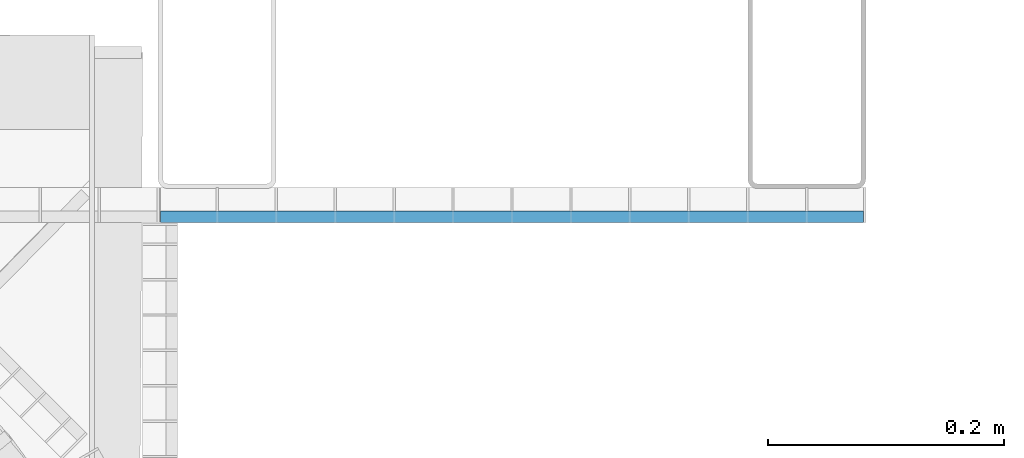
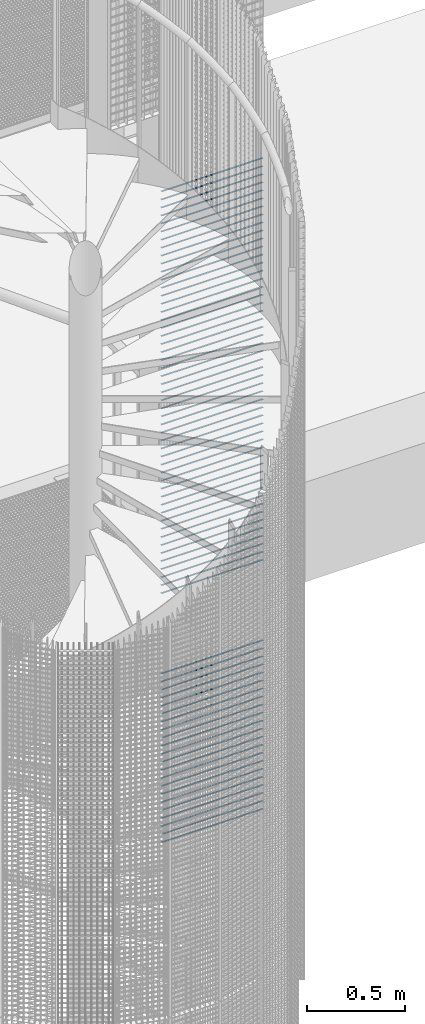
# One storey, part 294 of 1148: 73 beams, 1 element without a shape of its own.
"""IFC2X3 building model written with IfcOpenShell, lengths in millimetres."""

from ifc_helpers import new_model, si_unit, frame, origin_with_axes, origin_2d_with_axis, place, context, subcontext, project, spatial, rectangle, extrude, material, type_object, element, aggregate, save


model = new_model("IFC2X3")

# Units and contexts
model_context = context("Model", 3, precision=1e-05, world=origin_with_axes())
body_context = subcontext(model_context, "Body", "Model", "MODEL_VIEW")
ifc_project = project(units=[si_unit("LENGTHUNIT", "METRE", prefix="MILLI"), si_unit("AREAUNIT", "SQUARE_METRE"), si_unit("VOLUMEUNIT", "CUBIC_METRE"), si_unit("MASSUNIT", "GRAM", prefix="KILO"), si_unit("TIMEUNIT", "SECOND"), si_unit("PLANEANGLEUNIT", "RADIAN"), si_unit("SOLIDANGLEUNIT", "STERADIAN"), si_unit("THERMODYNAMICTEMPERATUREUNIT", "DEGREE_CELSIUS"), si_unit("LUMINOUSINTENSITYUNIT", "LUMEN")], contexts=[model_context])

# Site, building, storey
site_placement = place(None, origin_with_axes())
site = spatial("IfcSite", under=ifc_project, at=site_placement, Name="Undefined", CompositionType="ELEMENT")
building_placement = place(site_placement, origin_with_axes())
building = spatial("IfcBuilding", under=site, at=building_placement, Name="Undefined", CompositionType="ELEMENT")
storey_placement = place(building_placement, origin_with_axes())
storey = spatial("IfcBuildingStorey", under=building, at=storey_placement, Name="Undefined", CompositionType="ELEMENT", Elevation=0.0)

# Assembly, beams
assembly_placement = place(storey_placement, origin_with_axes())
assembly = element("IfcElementAssembly", 1, at=assembly_placement, inside=storey, Name="BORDURE", AssemblyPlace="NOTDEFINED", PredefinedType="NOTDEFINED")
ifc_material = material(Name="STEEL/S235JR")
beam_type = type_object("IfcBeamType", Name="PL2*10", PredefinedType="NOTDEFINED")
beam_1_placement = place(assembly_placement, frame((952.069589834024, 876.014689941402, 9554.998), z_axis=(0.0, -1.0, 0.0), x_axis=(1.0, 0.0, 0.0)))
beam_1 = element("IfcBeam", 2, at=beam_1_placement, type_object=beam_type, material=ifc_material, Name="ENTRETOISE", context=body_context, shape_type="SweptSolid", body=[
    extrude(rectangle(XDim=2.0, YDim=10.0, at=origin_2d_with_axis()), frame((596.0, 0.0, 0.0), z_axis=(-1.0, 0.0, 0.0), x_axis=(0.0, -1.0, 0.0)), (0.0, 0.0, 1.0), 596.0),
])
beam_2_placement = place(assembly_placement, frame((952.069589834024, 876.014689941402, 9504.998), z_axis=(0.0, -1.0, 0.0), x_axis=(1.0, 0.0, 0.0)))
beam_2 = element("IfcBeam", 3, at=beam_2_placement, type_object=beam_type, material=ifc_material, Name="ENTRETOISE", context=body_context, shape_type="SweptSolid", body=[
    extrude(rectangle(XDim=2.0, YDim=10.0, at=origin_2d_with_axis()), frame((596.0, 0.0, 0.0), z_axis=(-1.0, 0.0, 0.0), x_axis=(0.0, -1.0, 0.0)), (0.0, 0.0, 1.0), 596.0),
])
beam_3_placement = place(assembly_placement, frame((952.069589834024, 876.014689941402, 9454.998), z_axis=(0.0, -1.0, 0.0), x_axis=(1.0, 0.0, 0.0)))
beam_3 = element("IfcBeam", 4, at=beam_3_placement, type_object=beam_type, material=ifc_material, Name="ENTRETOISE", context=body_context, shape_type="SweptSolid", body=[
    extrude(rectangle(XDim=2.0, YDim=10.0, at=origin_2d_with_axis()), frame((596.0, 0.0, 0.0), z_axis=(-1.0, 0.0, 0.0), x_axis=(0.0, -1.0, 0.0)), (0.0, 0.0, 1.0), 596.0),
])
beam_4_placement = place(assembly_placement, frame((952.069589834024, 876.014689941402, 9404.998), z_axis=(0.0, -1.0, 0.0), x_axis=(1.0, 0.0, 0.0)))
beam_4 = element("IfcBeam", 5, at=beam_4_placement, type_object=beam_type, material=ifc_material, Name="ENTRETOISE", context=body_context, shape_type="SweptSolid", body=[
    extrude(rectangle(XDim=2.0, YDim=10.0, at=origin_2d_with_axis()), frame((596.0, 0.0, 0.0), z_axis=(-1.0, 0.0, 0.0), x_axis=(0.0, -1.0, 0.0)), (0.0, 0.0, 1.0), 596.0),
])
beam_5_placement = place(assembly_placement, frame((952.069589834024, 876.014689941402, 9354.998), z_axis=(0.0, -1.0, 0.0), x_axis=(1.0, 0.0, 0.0)))
beam_5 = element("IfcBeam", 6, at=beam_5_placement, type_object=beam_type, material=ifc_material, Name="ENTRETOISE", context=body_context, shape_type="SweptSolid", body=[
    extrude(rectangle(XDim=2.0, YDim=10.0, at=origin_2d_with_axis()), frame((596.0, 0.0, 0.0), z_axis=(-1.0, 0.0, 0.0), x_axis=(0.0, -1.0, 0.0)), (0.0, 0.0, 1.0), 596.0),
])
beam_6_placement = place(assembly_placement, frame((952.069589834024, 876.014689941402, 9304.998), z_axis=(0.0, -1.0, 0.0), x_axis=(1.0, 0.0, 0.0)))
beam_6 = element("IfcBeam", 7, at=beam_6_placement, type_object=beam_type, material=ifc_material, Name="ENTRETOISE", context=body_context, shape_type="SweptSolid", body=[
    extrude(rectangle(XDim=2.0, YDim=10.0, at=origin_2d_with_axis()), frame((596.0, 0.0, 0.0), z_axis=(-1.0, 0.0, 0.0), x_axis=(0.0, -1.0, 0.0)), (0.0, 0.0, 1.0), 596.0),
])
beam_7_placement = place(assembly_placement, frame((952.069589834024, 876.014689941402, 9254.998), z_axis=(0.0, -1.0, 0.0), x_axis=(1.0, 0.0, 0.0)))
beam_7 = element("IfcBeam", 8, at=beam_7_placement, type_object=beam_type, material=ifc_material, Name="ENTRETOISE", context=body_context, shape_type="SweptSolid", body=[
    extrude(rectangle(XDim=2.0, YDim=10.0, at=origin_2d_with_axis()), frame((596.0, 0.0, 0.0), z_axis=(-1.0, 0.0, 0.0), x_axis=(0.0, -1.0, 0.0)), (0.0, 0.0, 1.0), 596.0),
])
beam_8_placement = place(assembly_placement, frame((952.069589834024, 876.014689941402, 9204.998), z_axis=(0.0, -1.0, 0.0), x_axis=(1.0, 0.0, 0.0)))
beam_8 = element("IfcBeam", 9, at=beam_8_placement, type_object=beam_type, material=ifc_material, Name="ENTRETOISE", context=body_context, shape_type="SweptSolid", body=[
    extrude(rectangle(XDim=2.0, YDim=10.0, at=origin_2d_with_axis()), frame((596.0, 0.0, 0.0), z_axis=(-1.0, 0.0, 0.0), x_axis=(0.0, -1.0, 0.0)), (0.0, 0.0, 1.0), 596.0),
])
beam_9_placement = place(assembly_placement, frame((952.069589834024, 876.014689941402, 9154.998), z_axis=(0.0, -1.0, 0.0), x_axis=(1.0, 0.0, 0.0)))
beam_9 = element("IfcBeam", 10, at=beam_9_placement, type_object=beam_type, material=ifc_material, Name="ENTRETOISE", context=body_context, shape_type="SweptSolid", body=[
    extrude(rectangle(XDim=2.0, YDim=10.0, at=origin_2d_with_axis()), frame((596.0, 0.0, 0.0), z_axis=(-1.0, 0.0, 0.0), x_axis=(0.0, -1.0, 0.0)), (0.0, 0.0, 1.0), 596.0),
])
beam_10_placement = place(assembly_placement, frame((952.069589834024, 876.014689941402, 9104.998), z_axis=(0.0, -1.0, 0.0), x_axis=(1.0, 0.0, 0.0)))
beam_10 = element("IfcBeam", 11, at=beam_10_placement, type_object=beam_type, material=ifc_material, Name="ENTRETOISE", context=body_context, shape_type="SweptSolid", body=[
    extrude(rectangle(XDim=2.0, YDim=10.0, at=origin_2d_with_axis()), frame((596.0, 0.0, 0.0), z_axis=(-1.0, 0.0, 0.0), x_axis=(0.0, -1.0, 0.0)), (0.0, 0.0, 1.0), 596.0),
])
beam_11_placement = place(assembly_placement, frame((952.069589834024, 876.014689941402, 9054.998), z_axis=(0.0, -1.0, 0.0), x_axis=(1.0, 0.0, 0.0)))
beam_11 = element("IfcBeam", 12, at=beam_11_placement, type_object=beam_type, material=ifc_material, Name="ENTRETOISE", context=body_context, shape_type="SweptSolid", body=[
    extrude(rectangle(XDim=2.0, YDim=10.0, at=origin_2d_with_axis()), frame((596.0, 0.0, 0.0), z_axis=(-1.0, 0.0, 0.0), x_axis=(0.0, -1.0, 0.0)), (0.0, 0.0, 1.0), 596.0),
])
beam_12_placement = place(assembly_placement, frame((952.069589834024, 876.014689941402, 9004.998), z_axis=(0.0, -1.0, 0.0), x_axis=(1.0, 0.0, 0.0)))
beam_12 = element("IfcBeam", 13, at=beam_12_placement, type_object=beam_type, material=ifc_material, Name="ENTRETOISE", context=body_context, shape_type="SweptSolid", body=[
    extrude(rectangle(XDim=2.0, YDim=10.0, at=origin_2d_with_axis()), frame((596.0, 0.0, 0.0), z_axis=(-1.0, 0.0, 0.0), x_axis=(0.0, -1.0, 0.0)), (0.0, 0.0, 1.0), 596.0),
])
beam_13_placement = place(assembly_placement, frame((952.069589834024, 876.014689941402, 8954.998), z_axis=(0.0, -1.0, 0.0), x_axis=(1.0, 0.0, 0.0)))
beam_13 = element("IfcBeam", 14, at=beam_13_placement, type_object=beam_type, material=ifc_material, Name="ENTRETOISE", context=body_context, shape_type="SweptSolid", body=[
    extrude(rectangle(XDim=2.0, YDim=10.0, at=origin_2d_with_axis()), frame((596.0, 0.0, 0.0), z_axis=(-1.0, 0.0, 0.0), x_axis=(0.0, -1.0, 0.0)), (0.0, 0.0, 1.0), 596.0),
])
beam_14_placement = place(assembly_placement, frame((952.069589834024, 876.014689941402, 8904.998), z_axis=(0.0, -1.0, 0.0), x_axis=(1.0, 0.0, 0.0)))
beam_14 = element("IfcBeam", 15, at=beam_14_placement, type_object=beam_type, material=ifc_material, Name="ENTRETOISE", context=body_context, shape_type="SweptSolid", body=[
    extrude(rectangle(XDim=2.0, YDim=10.0, at=origin_2d_with_axis()), frame((596.0, 0.0, 0.0), z_axis=(-1.0, 0.0, 0.0), x_axis=(0.0, -1.0, 0.0)), (0.0, 0.0, 1.0), 596.0),
])
beam_15_placement = place(assembly_placement, frame((952.069589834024, 876.014689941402, 8854.998), z_axis=(0.0, -1.0, 0.0), x_axis=(1.0, 0.0, 0.0)))
beam_15 = element("IfcBeam", 16, at=beam_15_placement, type_object=beam_type, material=ifc_material, Name="ENTRETOISE", context=body_context, shape_type="SweptSolid", body=[
    extrude(rectangle(XDim=2.0, YDim=10.0, at=origin_2d_with_axis()), frame((596.0, 0.0, 0.0), z_axis=(-1.0, 0.0, 0.0), x_axis=(0.0, -1.0, 0.0)), (0.0, 0.0, 1.0), 596.0),
])
beam_16_placement = place(assembly_placement, frame((952.069589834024, 876.014689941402, 8804.998), z_axis=(0.0, -1.0, 0.0), x_axis=(1.0, 0.0, 0.0)))
beam_16 = element("IfcBeam", 17, at=beam_16_placement, type_object=beam_type, material=ifc_material, Name="ENTRETOISE", context=body_context, shape_type="SweptSolid", body=[
    extrude(rectangle(XDim=2.0, YDim=10.0, at=origin_2d_with_axis()), frame((596.0, 0.0, 0.0), z_axis=(-1.0, 0.0, 0.0), x_axis=(0.0, -1.0, 0.0)), (0.0, 0.0, 1.0), 596.0),
])
beam_17_placement = place(assembly_placement, frame((952.069589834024, 876.014689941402, 8754.998), z_axis=(0.0, -1.0, 0.0), x_axis=(1.0, 0.0, 0.0)))
beam_17 = element("IfcBeam", 18, at=beam_17_placement, type_object=beam_type, material=ifc_material, Name="ENTRETOISE", context=body_context, shape_type="SweptSolid", body=[
    extrude(rectangle(XDim=2.0, YDim=10.0, at=origin_2d_with_axis()), frame((596.0, 0.0, 0.0), z_axis=(-1.0, 0.0, 0.0), x_axis=(0.0, -1.0, 0.0)), (0.0, 0.0, 1.0), 596.0),
])
beam_18_placement = place(assembly_placement, frame((952.069589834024, 876.014689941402, 8704.998), z_axis=(0.0, -1.0, 0.0), x_axis=(1.0, 0.0, 0.0)))
beam_18 = element("IfcBeam", 19, at=beam_18_placement, type_object=beam_type, material=ifc_material, Name="ENTRETOISE", context=body_context, shape_type="SweptSolid", body=[
    extrude(rectangle(XDim=2.0, YDim=10.0, at=origin_2d_with_axis()), frame((596.0, 0.0, 0.0), z_axis=(-1.0, 0.0, 0.0), x_axis=(0.0, -1.0, 0.0)), (0.0, 0.0, 1.0), 596.0),
])
beam_19_placement = place(assembly_placement, frame((952.069589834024, 876.014689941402, 8654.998), z_axis=(0.0, -1.0, 0.0), x_axis=(1.0, 0.0, 0.0)))
beam_19 = element("IfcBeam", 20, at=beam_19_placement, type_object=beam_type, material=ifc_material, Name="ENTRETOISE", context=body_context, shape_type="SweptSolid", body=[
    extrude(rectangle(XDim=2.0, YDim=10.0, at=origin_2d_with_axis()), frame((596.0, 0.0, 0.0), z_axis=(-1.0, 0.0, 0.0), x_axis=(0.0, -1.0, 0.0)), (0.0, 0.0, 1.0), 596.0),
])
beam_20_placement = place(assembly_placement, frame((952.069589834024, 876.014689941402, 8604.998), z_axis=(0.0, -1.0, 0.0), x_axis=(1.0, 0.0, 0.0)))
beam_20 = element("IfcBeam", 21, at=beam_20_placement, type_object=beam_type, material=ifc_material, Name="ENTRETOISE", context=body_context, shape_type="SweptSolid", body=[
    extrude(rectangle(XDim=2.0, YDim=10.0, at=origin_2d_with_axis()), frame((596.0, 0.0, 0.0), z_axis=(-1.0, 0.0, 0.0), x_axis=(0.0, -1.0, 0.0)), (0.0, 0.0, 1.0), 596.0),
])
beam_21_placement = place(assembly_placement, frame((952.069589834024, 876.014689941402, 8554.998), z_axis=(0.0, -1.0, 0.0), x_axis=(1.0, 0.0, 0.0)))
beam_21 = element("IfcBeam", 22, at=beam_21_placement, type_object=beam_type, material=ifc_material, Name="ENTRETOISE", context=body_context, shape_type="SweptSolid", body=[
    extrude(rectangle(XDim=2.0, YDim=10.0, at=origin_2d_with_axis()), frame((596.0, 0.0, 0.0), z_axis=(-1.0, 0.0, 0.0), x_axis=(0.0, -1.0, 0.0)), (0.0, 0.0, 1.0), 596.0),
])
beam_22_placement = place(assembly_placement, frame((952.069589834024, 876.014689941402, 8504.998), z_axis=(0.0, -1.0, 0.0), x_axis=(1.0, 0.0, 0.0)))
beam_22 = element("IfcBeam", 23, at=beam_22_placement, type_object=beam_type, material=ifc_material, Name="ENTRETOISE", context=body_context, shape_type="SweptSolid", body=[
    extrude(rectangle(XDim=2.0, YDim=10.0, at=origin_2d_with_axis()), frame((596.0, 0.0, 0.0), z_axis=(-1.0, 0.0, 0.0), x_axis=(0.0, -1.0, 0.0)), (0.0, 0.0, 1.0), 596.0),
])
beam_23_placement = place(assembly_placement, frame((952.069589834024, 876.014689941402, 8454.998), z_axis=(0.0, -1.0, 0.0), x_axis=(1.0, 0.0, 0.0)))
beam_23 = element("IfcBeam", 24, at=beam_23_placement, type_object=beam_type, material=ifc_material, Name="ENTRETOISE", context=body_context, shape_type="SweptSolid", body=[
    extrude(rectangle(XDim=2.0, YDim=10.0, at=origin_2d_with_axis()), frame((596.0, 0.0, 0.0), z_axis=(-1.0, 0.0, 0.0), x_axis=(0.0, -1.0, 0.0)), (0.0, 0.0, 1.0), 596.0),
])
beam_24_placement = place(assembly_placement, frame((952.069589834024, 876.014689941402, 8404.998), z_axis=(0.0, -1.0, 0.0), x_axis=(1.0, 0.0, 0.0)))
beam_24 = element("IfcBeam", 25, at=beam_24_placement, type_object=beam_type, material=ifc_material, Name="ENTRETOISE", context=body_context, shape_type="SweptSolid", body=[
    extrude(rectangle(XDim=2.0, YDim=10.0, at=origin_2d_with_axis()), frame((596.0, 0.0, 0.0), z_axis=(-1.0, 0.0, 0.0), x_axis=(0.0, -1.0, 0.0)), (0.0, 0.0, 1.0), 596.0),
])
beam_25_placement = place(assembly_placement, frame((952.069589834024, 876.014689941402, 8354.998), z_axis=(0.0, -1.0, 0.0), x_axis=(1.0, 0.0, 0.0)))
beam_25 = element("IfcBeam", 26, at=beam_25_placement, type_object=beam_type, material=ifc_material, Name="ENTRETOISE", context=body_context, shape_type="SweptSolid", body=[
    extrude(rectangle(XDim=2.0, YDim=10.0, at=origin_2d_with_axis()), frame((596.0, 0.0, 0.0), z_axis=(-1.0, 0.0, 0.0), x_axis=(0.0, -1.0, 0.0)), (0.0, 0.0, 1.0), 596.0),
])
beam_26_placement = place(assembly_placement, frame((952.069589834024, 876.014689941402, 8304.998), z_axis=(0.0, -1.0, 0.0), x_axis=(1.0, 0.0, 0.0)))
beam_26 = element("IfcBeam", 27, at=beam_26_placement, type_object=beam_type, material=ifc_material, Name="ENTRETOISE", context=body_context, shape_type="SweptSolid", body=[
    extrude(rectangle(XDim=2.0, YDim=10.0, at=origin_2d_with_axis()), frame((596.0, 0.0, 0.0), z_axis=(-1.0, 0.0, 0.0), x_axis=(0.0, -1.0, 0.0)), (0.0, 0.0, 1.0), 596.0),
])
beam_27_placement = place(assembly_placement, frame((952.069589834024, 876.014689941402, 8254.998), z_axis=(0.0, -1.0, 0.0), x_axis=(1.0, 0.0, 0.0)))
beam_27 = element("IfcBeam", 28, at=beam_27_placement, type_object=beam_type, material=ifc_material, Name="ENTRETOISE", context=body_context, shape_type="SweptSolid", body=[
    extrude(rectangle(XDim=2.0, YDim=10.0, at=origin_2d_with_axis()), frame((596.0, 0.0, 0.0), z_axis=(-1.0, 0.0, 0.0), x_axis=(0.0, -1.0, 0.0)), (0.0, 0.0, 1.0), 596.0),
])
beam_28_placement = place(assembly_placement, frame((952.069589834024, 876.014689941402, 8204.998), z_axis=(0.0, -1.0, 0.0), x_axis=(1.0, 0.0, 0.0)))
beam_28 = element("IfcBeam", 29, at=beam_28_placement, type_object=beam_type, material=ifc_material, Name="ENTRETOISE", context=body_context, shape_type="SweptSolid", body=[
    extrude(rectangle(XDim=2.0, YDim=10.0, at=origin_2d_with_axis()), frame((596.0, 0.0, 0.0), z_axis=(-1.0, 0.0, 0.0), x_axis=(0.0, -1.0, 0.0)), (0.0, 0.0, 1.0), 596.0),
])
beam_29_placement = place(assembly_placement, frame((952.069589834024, 876.014689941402, 8154.998), z_axis=(0.0, -1.0, 0.0), x_axis=(1.0, 0.0, 0.0)))
beam_29 = element("IfcBeam", 30, at=beam_29_placement, type_object=beam_type, material=ifc_material, Name="ENTRETOISE", context=body_context, shape_type="SweptSolid", body=[
    extrude(rectangle(XDim=2.0, YDim=10.0, at=origin_2d_with_axis()), frame((596.0, 0.0, 0.0), z_axis=(-1.0, 0.0, 0.0), x_axis=(0.0, -1.0, 0.0)), (0.0, 0.0, 1.0), 596.0),
])
beam_30_placement = place(assembly_placement, frame((952.069589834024, 876.014689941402, 8104.998), z_axis=(0.0, -1.0, 0.0), x_axis=(1.0, 0.0, 0.0)))
beam_30 = element("IfcBeam", 31, at=beam_30_placement, type_object=beam_type, material=ifc_material, Name="ENTRETOISE", context=body_context, shape_type="SweptSolid", body=[
    extrude(rectangle(XDim=2.0, YDim=10.0, at=origin_2d_with_axis()), frame((596.0, 0.0, 0.0), z_axis=(-1.0, 0.0, 0.0), x_axis=(0.0, -1.0, 0.0)), (0.0, 0.0, 1.0), 596.0),
])
beam_31_placement = place(assembly_placement, frame((952.069589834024, 876.014689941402, 8054.998), z_axis=(0.0, -1.0, 0.0), x_axis=(1.0, 0.0, 0.0)))
beam_31 = element("IfcBeam", 32, at=beam_31_placement, type_object=beam_type, material=ifc_material, Name="ENTRETOISE", context=body_context, shape_type="SweptSolid", body=[
    extrude(rectangle(XDim=2.0, YDim=10.0, at=origin_2d_with_axis()), frame((596.0, 0.0, 0.0), z_axis=(-1.0, 0.0, 0.0), x_axis=(0.0, -1.0, 0.0)), (0.0, 0.0, 1.0), 596.0),
])
beam_32_placement = place(assembly_placement, frame((952.069589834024, 876.014689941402, 8004.998), z_axis=(0.0, -1.0, 0.0), x_axis=(1.0, 0.0, 0.0)))
beam_32 = element("IfcBeam", 33, at=beam_32_placement, type_object=beam_type, material=ifc_material, Name="ENTRETOISE", context=body_context, shape_type="SweptSolid", body=[
    extrude(rectangle(XDim=2.0, YDim=10.0, at=origin_2d_with_axis()), frame((596.0, 0.0, 0.0), z_axis=(-1.0, 0.0, 0.0), x_axis=(0.0, -1.0, 0.0)), (0.0, 0.0, 1.0), 596.0),
])
beam_33_placement = place(assembly_placement, frame((952.069589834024, 876.014689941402, 7954.998), z_axis=(0.0, -1.0, 0.0), x_axis=(1.0, 0.0, 0.0)))
beam_33 = element("IfcBeam", 34, at=beam_33_placement, type_object=beam_type, material=ifc_material, Name="ENTRETOISE", context=body_context, shape_type="SweptSolid", body=[
    extrude(rectangle(XDim=2.0, YDim=10.0, at=origin_2d_with_axis()), frame((596.0, 0.0, 0.0), z_axis=(-1.0, 0.0, 0.0), x_axis=(0.0, -1.0, 0.0)), (0.0, 0.0, 1.0), 596.0),
])
beam_34_placement = place(assembly_placement, frame((952.069589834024, 876.014689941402, 7904.998), z_axis=(0.0, -1.0, 0.0), x_axis=(1.0, 0.0, 0.0)))
beam_34 = element("IfcBeam", 35, at=beam_34_placement, type_object=beam_type, material=ifc_material, Name="ENTRETOISE", context=body_context, shape_type="SweptSolid", body=[
    extrude(rectangle(XDim=2.0, YDim=10.0, at=origin_2d_with_axis()), frame((596.0, 0.0, 0.0), z_axis=(-1.0, 0.0, 0.0), x_axis=(0.0, -1.0, 0.0)), (0.0, 0.0, 1.0), 596.0),
])
beam_35_placement = place(assembly_placement, frame((952.069589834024, 876.014689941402, 7854.998), z_axis=(0.0, -1.0, 0.0), x_axis=(1.0, 0.0, 0.0)))
beam_35 = element("IfcBeam", 36, at=beam_35_placement, type_object=beam_type, material=ifc_material, Name="ENTRETOISE", context=body_context, shape_type="SweptSolid", body=[
    extrude(rectangle(XDim=2.0, YDim=10.0, at=origin_2d_with_axis()), frame((596.0, 0.0, 0.0), z_axis=(-1.0, 0.0, 0.0), x_axis=(0.0, -1.0, 0.0)), (0.0, 0.0, 1.0), 596.0),
])
beam_36_placement = place(assembly_placement, frame((952.069589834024, 876.014689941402, 7804.998), z_axis=(0.0, -1.0, 0.0), x_axis=(1.0, 0.0, 0.0)))
beam_36 = element("IfcBeam", 37, at=beam_36_placement, type_object=beam_type, material=ifc_material, Name="ENTRETOISE", context=body_context, shape_type="SweptSolid", body=[
    extrude(rectangle(XDim=2.0, YDim=10.0, at=origin_2d_with_axis()), frame((596.0, 0.0, 0.0), z_axis=(-1.0, 0.0, 0.0), x_axis=(0.0, -1.0, 0.0)), (0.0, 0.0, 1.0), 596.0),
])
beam_37_placement = place(assembly_placement, frame((952.069589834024, 876.014689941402, 7754.998), z_axis=(0.0, -1.0, 0.0), x_axis=(1.0, 0.0, 0.0)))
beam_37 = element("IfcBeam", 38, at=beam_37_placement, type_object=beam_type, material=ifc_material, Name="ENTRETOISE", context=body_context, shape_type="SweptSolid", body=[
    extrude(rectangle(XDim=2.0, YDim=10.0, at=origin_2d_with_axis()), frame((596.0, 0.0, 0.0), z_axis=(-1.0, 0.0, 0.0), x_axis=(0.0, -1.0, 0.0)), (0.0, 0.0, 1.0), 596.0),
])
beam_38_placement = place(assembly_placement, frame((952.069589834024, 876.014689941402, 7704.998), z_axis=(0.0, -1.0, 0.0), x_axis=(1.0, 0.0, 0.0)))
beam_38 = element("IfcBeam", 39, at=beam_38_placement, type_object=beam_type, material=ifc_material, Name="ENTRETOISE", context=body_context, shape_type="SweptSolid", body=[
    extrude(rectangle(XDim=2.0, YDim=10.0, at=origin_2d_with_axis()), frame((596.0, 0.0, 0.0), z_axis=(-1.0, 0.0, 0.0), x_axis=(0.0, -1.0, 0.0)), (0.0, 0.0, 1.0), 596.0),
])
beam_39_placement = place(assembly_placement, frame((952.069589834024, 876.014689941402, 7654.998), z_axis=(0.0, -1.0, 0.0), x_axis=(1.0, 0.0, 0.0)))
beam_39 = element("IfcBeam", 40, at=beam_39_placement, type_object=beam_type, material=ifc_material, Name="ENTRETOISE", context=body_context, shape_type="SweptSolid", body=[
    extrude(rectangle(XDim=2.0, YDim=10.0, at=origin_2d_with_axis()), frame((596.0, 0.0, 0.0), z_axis=(-1.0, 0.0, 0.0), x_axis=(0.0, -1.0, 0.0)), (0.0, 0.0, 1.0), 596.0),
])
beam_40_placement = place(assembly_placement, frame((952.069589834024, 876.014689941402, 7604.998), z_axis=(0.0, -1.0, 0.0), x_axis=(1.0, 0.0, 0.0)))
beam_40 = element("IfcBeam", 41, at=beam_40_placement, type_object=beam_type, material=ifc_material, Name="ENTRETOISE", context=body_context, shape_type="SweptSolid", body=[
    extrude(rectangle(XDim=2.0, YDim=10.0, at=origin_2d_with_axis()), frame((596.0, 0.0, 0.0), z_axis=(-1.0, 0.0, 0.0), x_axis=(0.0, -1.0, 0.0)), (0.0, 0.0, 1.0), 596.0),
])
beam_41_placement = place(assembly_placement, frame((952.069589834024, 876.014689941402, 7554.998), z_axis=(0.0, -1.0, 0.0), x_axis=(1.0, 0.0, 0.0)))
beam_41 = element("IfcBeam", 42, at=beam_41_placement, type_object=beam_type, material=ifc_material, Name="ENTRETOISE", context=body_context, shape_type="SweptSolid", body=[
    extrude(rectangle(XDim=2.0, YDim=10.0, at=origin_2d_with_axis()), frame((596.0, 0.0, 0.0), z_axis=(-1.0, 0.0, 0.0), x_axis=(0.0, -1.0, 0.0)), (0.0, 0.0, 1.0), 596.0),
])
beam_42_placement = place(assembly_placement, frame((952.069589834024, 876.014689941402, 7504.998), z_axis=(0.0, -1.0, 0.0), x_axis=(1.0, 0.0, 0.0)))
beam_42 = element("IfcBeam", 43, at=beam_42_placement, type_object=beam_type, material=ifc_material, Name="ENTRETOISE", context=body_context, shape_type="SweptSolid", body=[
    extrude(rectangle(XDim=2.0, YDim=10.0, at=origin_2d_with_axis()), frame((596.0, 0.0, 0.0), z_axis=(-1.0, 0.0, 0.0), x_axis=(0.0, -1.0, 0.0)), (0.0, 0.0, 1.0), 596.0),
])
beam_43_placement = place(assembly_placement, frame((952.069589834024, 876.014689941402, 7454.998), z_axis=(0.0, -1.0, 0.0), x_axis=(1.0, 0.0, 0.0)))
beam_43 = element("IfcBeam", 44, at=beam_43_placement, type_object=beam_type, material=ifc_material, Name="ENTRETOISE", context=body_context, shape_type="SweptSolid", body=[
    extrude(rectangle(XDim=2.0, YDim=10.0, at=origin_2d_with_axis()), frame((596.0, 0.0, 0.0), z_axis=(-1.0, 0.0, 0.0), x_axis=(0.0, -1.0, 0.0)), (0.0, 0.0, 1.0), 596.0),
])
beam_44_placement = place(assembly_placement, frame((952.069589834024, 876.014689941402, 7404.998), z_axis=(0.0, -1.0, 0.0), x_axis=(1.0, 0.0, 0.0)))
beam_44 = element("IfcBeam", 45, at=beam_44_placement, type_object=beam_type, material=ifc_material, Name="ENTRETOISE", context=body_context, shape_type="SweptSolid", body=[
    extrude(rectangle(XDim=2.0, YDim=10.0, at=origin_2d_with_axis()), frame((596.0, 0.0, 0.0), z_axis=(-1.0, 0.0, 0.0), x_axis=(0.0, -1.0, 0.0)), (0.0, 0.0, 1.0), 596.0),
])
beam_45_placement = place(assembly_placement, frame((952.069589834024, 876.014689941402, 7354.998), z_axis=(0.0, -1.0, 0.0), x_axis=(1.0, 0.0, 0.0)))
beam_45 = element("IfcBeam", 46, at=beam_45_placement, type_object=beam_type, material=ifc_material, Name="ENTRETOISE", context=body_context, shape_type="SweptSolid", body=[
    extrude(rectangle(XDim=2.0, YDim=10.0, at=origin_2d_with_axis()), frame((596.0, 0.0, 0.0), z_axis=(-1.0, 0.0, 0.0), x_axis=(0.0, -1.0, 0.0)), (0.0, 0.0, 1.0), 596.0),
])
beam_46_placement = place(assembly_placement, frame((952.069589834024, 876.014689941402, 7304.998), z_axis=(0.0, -1.0, 0.0), x_axis=(1.0, 0.0, 0.0)))
beam_46 = element("IfcBeam", 47, at=beam_46_placement, type_object=beam_type, material=ifc_material, Name="ENTRETOISE", context=body_context, shape_type="SweptSolid", body=[
    extrude(rectangle(XDim=2.0, YDim=10.0, at=origin_2d_with_axis()), frame((596.0, 0.0, 0.0), z_axis=(-1.0, 0.0, 0.0), x_axis=(0.0, -1.0, 0.0)), (0.0, 0.0, 1.0), 596.0),
])
beam_47_placement = place(assembly_placement, frame((952.069589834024, 876.014689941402, 7254.998), z_axis=(0.0, -1.0, 0.0), x_axis=(1.0, 0.0, 0.0)))
beam_47 = element("IfcBeam", 48, at=beam_47_placement, type_object=beam_type, material=ifc_material, Name="ENTRETOISE", context=body_context, shape_type="SweptSolid", body=[
    extrude(rectangle(XDim=2.0, YDim=10.0, at=origin_2d_with_axis()), frame((596.0, 0.0, 0.0), z_axis=(-1.0, 0.0, 0.0), x_axis=(0.0, -1.0, 0.0)), (0.0, 0.0, 1.0), 596.0),
])
beam_48_placement = place(assembly_placement, frame((952.069589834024, 876.014689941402, 7204.998), z_axis=(0.0, -1.0, 0.0), x_axis=(1.0, 0.0, 0.0)))
beam_48 = element("IfcBeam", 49, at=beam_48_placement, type_object=beam_type, material=ifc_material, Name="ENTRETOISE", context=body_context, shape_type="SweptSolid", body=[
    extrude(rectangle(XDim=2.0, YDim=10.0, at=origin_2d_with_axis()), frame((596.0, 0.0, 0.0), z_axis=(-1.0, 0.0, 0.0), x_axis=(0.0, -1.0, 0.0)), (0.0, 0.0, 1.0), 596.0),
])
beam_49_placement = place(assembly_placement, frame((952.069589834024, 876.014689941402, 7154.998), z_axis=(0.0, -1.0, 0.0), x_axis=(1.0, 0.0, 0.0)))
beam_49 = element("IfcBeam", 50, at=beam_49_placement, type_object=beam_type, material=ifc_material, Name="ENTRETOISE", context=body_context, shape_type="SweptSolid", body=[
    extrude(rectangle(XDim=2.0, YDim=10.0, at=origin_2d_with_axis()), frame((596.0, 0.0, 0.0), z_axis=(-1.0, 0.0, 0.0), x_axis=(0.0, -1.0, 0.0)), (0.0, 0.0, 1.0), 596.0),
])
beam_50_placement = place(assembly_placement, frame((952.069589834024, 876.014689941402, 7104.998), z_axis=(0.0, -1.0, 0.0), x_axis=(1.0, 0.0, 0.0)))
beam_50 = element("IfcBeam", 51, at=beam_50_placement, type_object=beam_type, material=ifc_material, Name="ENTRETOISE", context=body_context, shape_type="SweptSolid", body=[
    extrude(rectangle(XDim=2.0, YDim=10.0, at=origin_2d_with_axis()), frame((596.0, 0.0, 0.0), z_axis=(-1.0, 0.0, 0.0), x_axis=(0.0, -1.0, 0.0)), (0.0, 0.0, 1.0), 596.0),
])
beam_51_placement = place(assembly_placement, frame((952.069589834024, 876.014689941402, 7054.998), z_axis=(0.0, -1.0, 0.0), x_axis=(1.0, 0.0, 0.0)))
beam_51 = element("IfcBeam", 52, at=beam_51_placement, type_object=beam_type, material=ifc_material, Name="ENTRETOISE", context=body_context, shape_type="SweptSolid", body=[
    extrude(rectangle(XDim=2.0, YDim=10.0, at=origin_2d_with_axis()), frame((596.0, 0.0, 0.0), z_axis=(-1.0, 0.0, 0.0), x_axis=(0.0, -1.0, 0.0)), (0.0, 0.0, 1.0), 596.0),
])
beam_52_placement = place(assembly_placement, frame((952.069589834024, 876.014689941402, 5904.998), z_axis=(0.0, -1.0, 0.0), x_axis=(1.0, 0.0, 0.0)))
beam_52 = element("IfcBeam", 53, at=beam_52_placement, type_object=beam_type, material=ifc_material, Name="ENTRETOISE", context=body_context, shape_type="SweptSolid", body=[
    extrude(rectangle(XDim=2.0, YDim=10.0, at=origin_2d_with_axis()), frame((596.0, 0.0, 0.0), z_axis=(-1.0, 0.0, 0.0), x_axis=(0.0, -1.0, 0.0)), (0.0, 0.0, 1.0), 596.0),
])
beam_53_placement = place(assembly_placement, frame((952.069589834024, 876.014689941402, 5954.998), z_axis=(0.0, -1.0, 0.0), x_axis=(1.0, 0.0, 0.0)))
beam_53 = element("IfcBeam", 54, at=beam_53_placement, type_object=beam_type, material=ifc_material, Name="ENTRETOISE", context=body_context, shape_type="SweptSolid", body=[
    extrude(rectangle(XDim=2.0, YDim=10.0, at=origin_2d_with_axis()), frame((596.0, 0.0, 0.0), z_axis=(-1.0, 0.0, 0.0), x_axis=(0.0, -1.0, 0.0)), (0.0, 0.0, 1.0), 596.0),
])
beam_54_placement = place(assembly_placement, frame((952.069589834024, 876.014689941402, 5854.998), z_axis=(0.0, -1.0, 0.0), x_axis=(1.0, 0.0, 0.0)))
beam_54 = element("IfcBeam", 55, at=beam_54_placement, type_object=beam_type, material=ifc_material, Name="ENTRETOISE", context=body_context, shape_type="SweptSolid", body=[
    extrude(rectangle(XDim=2.0, YDim=10.0, at=origin_2d_with_axis()), frame((596.0, 0.0, 0.0), z_axis=(-1.0, 0.0, 0.0), x_axis=(0.0, -1.0, 0.0)), (0.0, 0.0, 1.0), 596.0),
])
beam_55_placement = place(assembly_placement, frame((952.069589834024, 876.014689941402, 6004.998), z_axis=(0.0, -1.0, 0.0), x_axis=(1.0, 0.0, 0.0)))
beam_55 = element("IfcBeam", 56, at=beam_55_placement, type_object=beam_type, material=ifc_material, Name="ENTRETOISE", context=body_context, shape_type="SweptSolid", body=[
    extrude(rectangle(XDim=2.0, YDim=10.0, at=origin_2d_with_axis()), frame((596.0, 0.0, 0.0), z_axis=(-1.0, 0.0, 0.0), x_axis=(0.0, -1.0, 0.0)), (0.0, 0.0, 1.0), 596.0),
])
beam_56_placement = place(assembly_placement, frame((952.069589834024, 876.014689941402, 5804.998), z_axis=(0.0, -1.0, 0.0), x_axis=(1.0, 0.0, 0.0)))
beam_56 = element("IfcBeam", 57, at=beam_56_placement, type_object=beam_type, material=ifc_material, Name="ENTRETOISE", context=body_context, shape_type="SweptSolid", body=[
    extrude(rectangle(XDim=2.0, YDim=10.0, at=origin_2d_with_axis()), frame((596.0, 0.0, 0.0), z_axis=(-1.0, 0.0, 0.0), x_axis=(0.0, -1.0, 0.0)), (0.0, 0.0, 1.0), 596.0),
])
beam_57_placement = place(assembly_placement, frame((952.069589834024, 876.014689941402, 6054.998), z_axis=(0.0, -1.0, 0.0), x_axis=(1.0, 0.0, 0.0)))
beam_57 = element("IfcBeam", 58, at=beam_57_placement, type_object=beam_type, material=ifc_material, Name="ENTRETOISE", context=body_context, shape_type="SweptSolid", body=[
    extrude(rectangle(XDim=2.0, YDim=10.0, at=origin_2d_with_axis()), frame((596.0, 0.0, 0.0), z_axis=(-1.0, 0.0, 0.0), x_axis=(0.0, -1.0, 0.0)), (0.0, 0.0, 1.0), 596.0),
])
beam_58_placement = place(assembly_placement, frame((952.069589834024, 876.014689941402, 6104.998), z_axis=(0.0, -1.0, 0.0), x_axis=(1.0, 0.0, 0.0)))
beam_58 = element("IfcBeam", 59, at=beam_58_placement, type_object=beam_type, material=ifc_material, Name="ENTRETOISE", context=body_context, shape_type="SweptSolid", body=[
    extrude(rectangle(XDim=2.0, YDim=10.0, at=origin_2d_with_axis()), frame((596.0, 0.0, 0.0), z_axis=(-1.0, 0.0, 0.0), x_axis=(0.0, -1.0, 0.0)), (0.0, 0.0, 1.0), 596.0),
])
beam_59_placement = place(assembly_placement, frame((952.069589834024, 876.014689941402, 5754.998), z_axis=(0.0, -1.0, 0.0), x_axis=(1.0, 0.0, 0.0)))
beam_59 = element("IfcBeam", 60, at=beam_59_placement, type_object=beam_type, material=ifc_material, Name="ENTRETOISE", context=body_context, shape_type="SweptSolid", body=[
    extrude(rectangle(XDim=2.0, YDim=10.0, at=origin_2d_with_axis()), frame((596.0, 0.0, 0.0), z_axis=(-1.0, 0.0, 0.0), x_axis=(0.0, -1.0, 0.0)), (0.0, 0.0, 1.0), 596.0),
])
beam_60_placement = place(assembly_placement, frame((952.069589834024, 876.014689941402, 6154.998), z_axis=(0.0, -1.0, 0.0), x_axis=(1.0, 0.0, 0.0)))
beam_60 = element("IfcBeam", 61, at=beam_60_placement, type_object=beam_type, material=ifc_material, Name="ENTRETOISE", context=body_context, shape_type="SweptSolid", body=[
    extrude(rectangle(XDim=2.0, YDim=10.0, at=origin_2d_with_axis()), frame((596.0, 0.0, 0.0), z_axis=(-1.0, 0.0, 0.0), x_axis=(0.0, -1.0, 0.0)), (0.0, 0.0, 1.0), 596.0),
])
beam_61_placement = place(assembly_placement, frame((952.069589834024, 876.014689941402, 6204.998), z_axis=(0.0, -1.0, 0.0), x_axis=(1.0, 0.0, 0.0)))
beam_61 = element("IfcBeam", 62, at=beam_61_placement, type_object=beam_type, material=ifc_material, Name="ENTRETOISE", context=body_context, shape_type="SweptSolid", body=[
    extrude(rectangle(XDim=2.0, YDim=10.0, at=origin_2d_with_axis()), frame((596.0, 0.0, 0.0), z_axis=(-1.0, 0.0, 0.0), x_axis=(0.0, -1.0, 0.0)), (0.0, 0.0, 1.0), 596.0),
])
beam_62_placement = place(assembly_placement, frame((952.069589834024, 876.014689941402, 5704.998), z_axis=(0.0, -1.0, 0.0), x_axis=(1.0, 0.0, 0.0)))
beam_62 = element("IfcBeam", 63, at=beam_62_placement, type_object=beam_type, material=ifc_material, Name="ENTRETOISE", context=body_context, shape_type="SweptSolid", body=[
    extrude(rectangle(XDim=2.0, YDim=10.0, at=origin_2d_with_axis()), frame((596.0, 0.0, 0.0), z_axis=(-1.0, 0.0, 0.0), x_axis=(0.0, -1.0, 0.0)), (0.0, 0.0, 1.0), 596.0),
])
beam_63_placement = place(assembly_placement, frame((952.069589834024, 876.014689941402, 6254.998), z_axis=(0.0, -1.0, 0.0), x_axis=(1.0, 0.0, 0.0)))
beam_63 = element("IfcBeam", 64, at=beam_63_placement, type_object=beam_type, material=ifc_material, Name="ENTRETOISE", context=body_context, shape_type="SweptSolid", body=[
    extrude(rectangle(XDim=2.0, YDim=10.0, at=origin_2d_with_axis()), frame((596.0, 0.0, 0.0), z_axis=(-1.0, 0.0, 0.0), x_axis=(0.0, -1.0, 0.0)), (0.0, 0.0, 1.0), 596.0),
])
beam_64_placement = place(assembly_placement, frame((952.069589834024, 876.014689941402, 5654.998), z_axis=(0.0, -1.0, 0.0), x_axis=(1.0, 0.0, 0.0)))
beam_64 = element("IfcBeam", 65, at=beam_64_placement, type_object=beam_type, material=ifc_material, Name="ENTRETOISE", context=body_context, shape_type="SweptSolid", body=[
    extrude(rectangle(XDim=2.0, YDim=10.0, at=origin_2d_with_axis()), frame((596.0, 0.0, 0.0), z_axis=(-1.0, 0.0, 0.0), x_axis=(0.0, -1.0, 0.0)), (0.0, 0.0, 1.0), 596.0),
])
beam_65_placement = place(assembly_placement, frame((952.069589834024, 876.014689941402, 6304.998), z_axis=(0.0, -1.0, 0.0), x_axis=(1.0, 0.0, 0.0)))
beam_65 = element("IfcBeam", 66, at=beam_65_placement, type_object=beam_type, material=ifc_material, Name="ENTRETOISE", context=body_context, shape_type="SweptSolid", body=[
    extrude(rectangle(XDim=2.0, YDim=10.0, at=origin_2d_with_axis()), frame((596.0, 0.0, 0.0), z_axis=(-1.0, 0.0, 0.0), x_axis=(0.0, -1.0, 0.0)), (0.0, 0.0, 1.0), 596.0),
])
beam_66_placement = place(assembly_placement, frame((952.069589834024, 876.014689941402, 6354.998), z_axis=(0.0, -1.0, 0.0), x_axis=(1.0, 0.0, 0.0)))
beam_66 = element("IfcBeam", 67, at=beam_66_placement, type_object=beam_type, material=ifc_material, Name="ENTRETOISE", context=body_context, shape_type="SweptSolid", body=[
    extrude(rectangle(XDim=2.0, YDim=10.0, at=origin_2d_with_axis()), frame((596.0, 0.0, 0.0), z_axis=(-1.0, 0.0, 0.0), x_axis=(0.0, -1.0, 0.0)), (0.0, 0.0, 1.0), 596.0),
])
beam_67_placement = place(assembly_placement, frame((952.069589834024, 876.014689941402, 5604.998), z_axis=(0.0, -1.0, 0.0), x_axis=(1.0, 0.0, 0.0)))
beam_67 = element("IfcBeam", 68, at=beam_67_placement, type_object=beam_type, material=ifc_material, Name="ENTRETOISE", context=body_context, shape_type="SweptSolid", body=[
    extrude(rectangle(XDim=2.0, YDim=10.0, at=origin_2d_with_axis()), frame((596.0, 0.0, 0.0), z_axis=(-1.0, 0.0, 0.0), x_axis=(0.0, -1.0, 0.0)), (0.0, 0.0, 1.0), 596.0),
])
beam_68_placement = place(assembly_placement, frame((952.069589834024, 876.014689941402, 6404.998), z_axis=(0.0, -1.0, 0.0), x_axis=(1.0, 0.0, 0.0)))
beam_68 = element("IfcBeam", 69, at=beam_68_placement, type_object=beam_type, material=ifc_material, Name="ENTRETOISE", context=body_context, shape_type="SweptSolid", body=[
    extrude(rectangle(XDim=2.0, YDim=10.0, at=origin_2d_with_axis()), frame((596.0, 0.0, 0.0), z_axis=(-1.0, 0.0, 0.0), x_axis=(0.0, -1.0, 0.0)), (0.0, 0.0, 1.0), 596.0),
])
beam_69_placement = place(assembly_placement, frame((952.069589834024, 876.014689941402, 6454.998), z_axis=(0.0, -1.0, 0.0), x_axis=(1.0, 0.0, 0.0)))
beam_69 = element("IfcBeam", 70, at=beam_69_placement, type_object=beam_type, material=ifc_material, Name="ENTRETOISE", context=body_context, shape_type="SweptSolid", body=[
    extrude(rectangle(XDim=2.0, YDim=10.0, at=origin_2d_with_axis()), frame((596.0, 0.0, 0.0), z_axis=(-1.0, 0.0, 0.0), x_axis=(0.0, -1.0, 0.0)), (0.0, 0.0, 1.0), 596.0),
])
beam_70_placement = place(assembly_placement, frame((952.069589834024, 876.014689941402, 5554.998), z_axis=(0.0, -1.0, 0.0), x_axis=(1.0, 0.0, 0.0)))
beam_70 = element("IfcBeam", 71, at=beam_70_placement, type_object=beam_type, material=ifc_material, Name="ENTRETOISE", context=body_context, shape_type="SweptSolid", body=[
    extrude(rectangle(XDim=2.0, YDim=10.0, at=origin_2d_with_axis()), frame((596.0, 0.0, 0.0), z_axis=(-1.0, 0.0, 0.0), x_axis=(0.0, -1.0, 0.0)), (0.0, 0.0, 1.0), 596.0),
])
beam_71_placement = place(assembly_placement, frame((952.069589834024, 876.014689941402, 6504.998), z_axis=(0.0, -1.0, 0.0), x_axis=(1.0, 0.0, 0.0)))
beam_71 = element("IfcBeam", 72, at=beam_71_placement, type_object=beam_type, material=ifc_material, Name="ENTRETOISE", context=body_context, shape_type="SweptSolid", body=[
    extrude(rectangle(XDim=2.0, YDim=10.0, at=origin_2d_with_axis()), frame((596.0, 0.0, 0.0), z_axis=(-1.0, 0.0, 0.0), x_axis=(0.0, -1.0, 0.0)), (0.0, 0.0, 1.0), 596.0),
])
beam_72_placement = place(assembly_placement, frame((952.069589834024, 876.014689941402, 5504.998), z_axis=(0.0, -1.0, 0.0), x_axis=(1.0, 0.0, 0.0)))
beam_72 = element("IfcBeam", 73, at=beam_72_placement, type_object=beam_type, material=ifc_material, Name="ENTRETOISE", context=body_context, shape_type="SweptSolid", body=[
    extrude(rectangle(XDim=2.0, YDim=10.0, at=origin_2d_with_axis()), frame((596.0, 0.0, 0.0), z_axis=(-1.0, 0.0, 0.0), x_axis=(0.0, -1.0, 0.0)), (0.0, 0.0, 1.0), 596.0),
])
beam_73_placement = place(assembly_placement, frame((952.069589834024, 876.014689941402, 6554.998), z_axis=(0.0, -1.0, 0.0), x_axis=(1.0, 0.0, 0.0)))
beam_73 = element("IfcBeam", 74, at=beam_73_placement, type_object=beam_type, material=ifc_material, Name="ENTRETOISE", context=body_context, shape_type="SweptSolid", body=[
    extrude(rectangle(XDim=2.0, YDim=10.0, at=origin_2d_with_axis()), frame((596.0, 0.0, 0.0), z_axis=(-1.0, 0.0, 0.0), x_axis=(0.0, -1.0, 0.0)), (0.0, 0.0, 1.0), 596.0),
])
aggregate(assembly, [beam_1, beam_2, beam_3, beam_4, beam_5, beam_6, beam_7, beam_8, beam_9, beam_10, beam_11, beam_12, beam_13, beam_14, beam_15, beam_16, beam_17, beam_18, beam_19, beam_20, beam_21, beam_22, beam_23, beam_24, beam_25, beam_26, beam_27, beam_28, beam_29, beam_30, beam_31, beam_32, beam_33, beam_34, beam_35, beam_36, beam_37, beam_38, beam_39, beam_40, beam_41, beam_42, beam_43, beam_44, beam_45, beam_46, beam_47, beam_48, beam_49, beam_50, beam_51, beam_52, beam_53, beam_54, beam_55, beam_56, beam_57, beam_58, beam_59, beam_60, beam_61, beam_62, beam_63, beam_64, beam_65, beam_66, beam_67, beam_68, beam_69, beam_70, beam_71, beam_72, beam_73])

save(model, "model.ifc")
